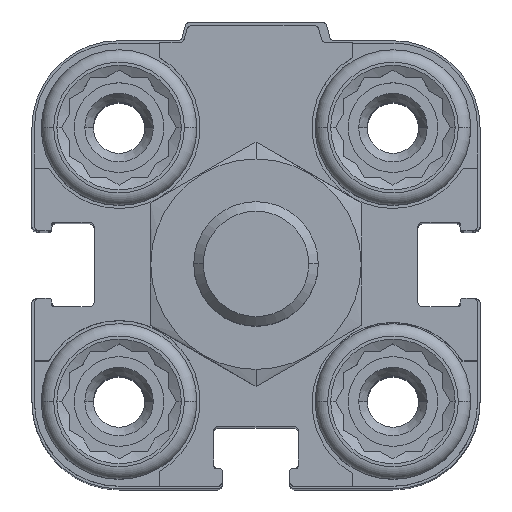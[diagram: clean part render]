
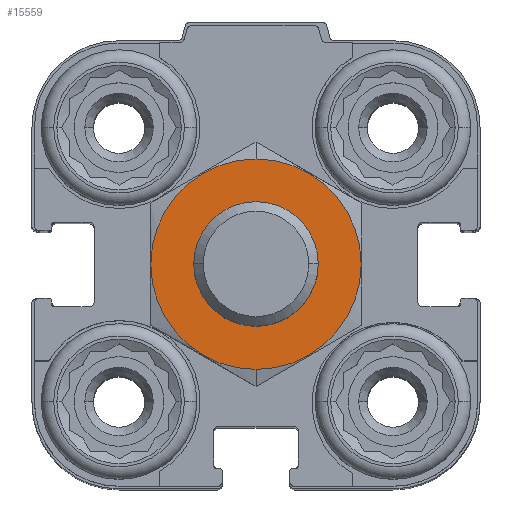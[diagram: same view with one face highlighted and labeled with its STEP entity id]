
A CAD part, top view. The second image highlights one B-rep face of the part: STEP entity #15559.
In plain terms, the highlighted planar face has unit normal (0, 0, 1).
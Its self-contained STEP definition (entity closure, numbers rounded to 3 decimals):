
#393 = ORIENTED_EDGE ( 'NONE', *, *, #5019, .F. ) ;
#1290 = DIRECTION ( 'NONE',  ( 0., 0., -1. ) ) ;
#1648 = CIRCLE ( 'NONE', #15791, 5. ) ;
#1661 = ORIENTED_EDGE ( 'NONE', *, *, #10129, .T. ) ;
#2715 = AXIS2_PLACEMENT_3D ( 'NONE', #7878, #4682, #17155 ) ;
#3638 = EDGE_LOOP ( 'NONE', ( #1661, #10560 ) ) ;
#4459 = CIRCLE ( 'NONE', #9742, 8.45 ) ;
#4682 = DIRECTION ( 'NONE',  ( 0., 0., -1. ) ) ;
#4834 = CARTESIAN_POINT ( 'NONE',  ( 0., -8.45, 13.5 ) ) ;
#5019 = EDGE_CURVE ( 'NONE', #7374, #14110, #4459, .T. ) ;
#5361 = CARTESIAN_POINT ( 'NONE',  ( 0., 0., 13.5 ) ) ;
#5461 = DIRECTION ( 'NONE',  ( 0., 0., -1. ) ) ;
#5586 = CARTESIAN_POINT ( 'NONE',  ( 0., 8.45, 13.5 ) ) ;
#5748 = VERTEX_POINT ( 'NONE', #12263 ) ;
#6342 = FACE_BOUND ( 'NONE', #3638, .T. ) ;
#7291 = AXIS2_PLACEMENT_3D ( 'NONE', #17166, #1290, #13964 ) ;
#7374 = VERTEX_POINT ( 'NONE', #4834 ) ;
#7714 = CARTESIAN_POINT ( 'NONE',  ( 0., 0., 13.5 ) ) ;
#7788 = PLANE ( 'NONE',  #7291 ) ;
#7878 = CARTESIAN_POINT ( 'NONE',  ( 0., 0., 13.5 ) ) ;
#8021 = VERTEX_POINT ( 'NONE', #19621 ) ;
#8476 = CIRCLE ( 'NONE', #16371, 5. ) ;
#9742 = AXIS2_PLACEMENT_3D ( 'NONE', #7714, #11002, #12862 ) ;
#9871 = EDGE_LOOP ( 'NONE', ( #393, #16329 ) ) ;
#10129 = EDGE_CURVE ( 'NONE', #5748, #8021, #8476, .T. ) ;
#10560 = ORIENTED_EDGE ( 'NONE', *, *, #12934, .T. ) ;
#11002 = DIRECTION ( 'NONE',  ( 0., 0., -1. ) ) ;
#11443 = DIRECTION ( 'NONE',  ( 0., -1., 0. ) ) ;
#12263 = CARTESIAN_POINT ( 'NONE',  ( 0., 5., 13.5 ) ) ;
#12524 = FACE_OUTER_BOUND ( 'NONE', #9871, .T. ) ;
#12822 = DIRECTION ( 'NONE',  ( 0., -1., 0. ) ) ;
#12862 = DIRECTION ( 'NONE',  ( 0., -1., 0. ) ) ;
#12934 = EDGE_CURVE ( 'NONE', #8021, #5748, #1648, .T. ) ;
#13964 = DIRECTION ( 'NONE',  ( 0., -1., 0. ) ) ;
#14110 = VERTEX_POINT ( 'NONE', #5586 ) ;
#14372 = CARTESIAN_POINT ( 'NONE',  ( 0., 0., 13.5 ) ) ;
#15559 = ADVANCED_FACE ( 'NONE', ( #12524, #6342 ), #7788, .F. ) ;
#15791 = AXIS2_PLACEMENT_3D ( 'NONE', #14372, #17158, #12822 ) ;
#16329 = ORIENTED_EDGE ( 'NONE', *, *, #16713, .F. ) ;
#16371 = AXIS2_PLACEMENT_3D ( 'NONE', #5361, #5461, #11443 ) ;
#16713 = EDGE_CURVE ( 'NONE', #14110, #7374, #18830, .T. ) ;
#17155 = DIRECTION ( 'NONE',  ( 0., -1., 0. ) ) ;
#17158 = DIRECTION ( 'NONE',  ( 0., 0., -1. ) ) ;
#17166 = CARTESIAN_POINT ( 'NONE',  ( 0., 0., 13.5 ) ) ;
#18830 = CIRCLE ( 'NONE', #2715, 8.45 ) ;
#19621 = CARTESIAN_POINT ( 'NONE',  ( 0., -5., 13.5 ) ) ;
